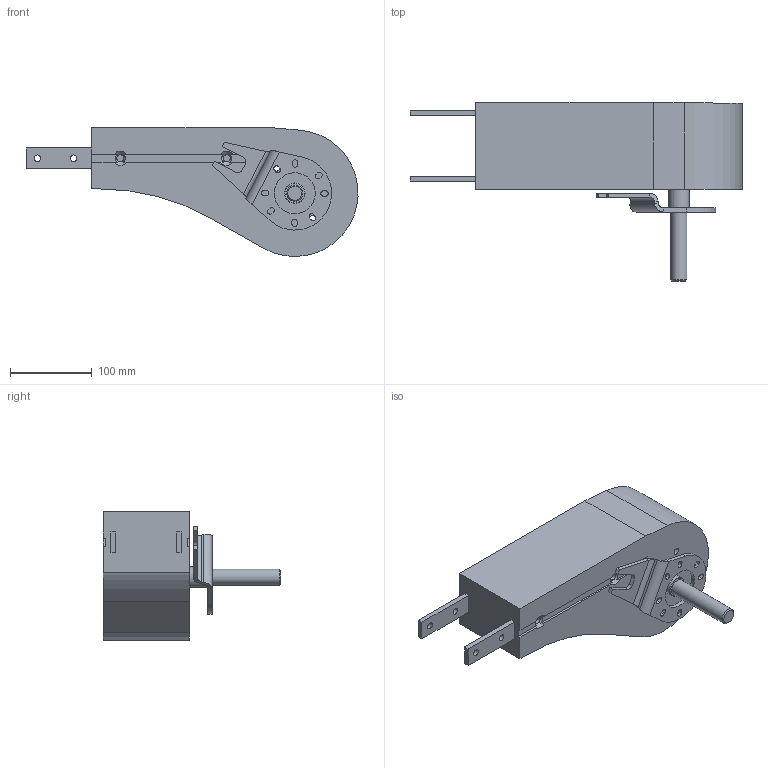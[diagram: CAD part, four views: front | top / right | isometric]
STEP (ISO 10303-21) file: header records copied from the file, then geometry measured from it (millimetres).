
FILE_DESCRIPTION(/* description */ ('Endantriebseinheit FH, medium, ohne Rutschkupplung, rechts, geschlossen, direkt'),/* implementation_level */ '2;1');
FILE_NAME(/* name */ 'T:\vdz0\Step Daten Website\modulflex FH-System\Antriebseinheiten rechts - links\FHEB_MNRGP_44093.stp',/* time_stamp */ '2024-08-21T12:30:57+02:00',/* author */ ('vdz0'),/* organization */ ('modular automation GmbH'),/* preprocessor_version */ 'ST-DEVELOPER v18.1',/* originating_system */ 'Autodesk Inventor 2021',/* authorisation */ '');
FILE_SCHEMA (('CONFIG_CONTROL_DESIGN'));
Length unit declared in the file: millimetre
Products named in the file (1): FHEB_MNRGP_44093
Bounding box: 405.12 x 217.1 x 157.4 mm (x, y, z)
Volume: 3839742.4 mm3; surface area: 210346.7 mm2
Topology: 2 solids, 3 shells, 137 faces, 354 edges, 228 vertices
Faces by surface type: plane 77, cylinder 44, cone 12, bspline 4
Full cylindrical faces by diameter (mm): 8 x8, 8.5 x6, 20 x1, 25 x1, 50 x1
Entity records: 4758 total; most frequent: CARTESIAN_POINT 1192, ORIENTED_EDGE 708, DIRECTION 702, EDGE_CURVE 354, AXIS2_PLACEMENT_3D 238, VERTEX_POINT 228, LINE 226, VECTOR 226
